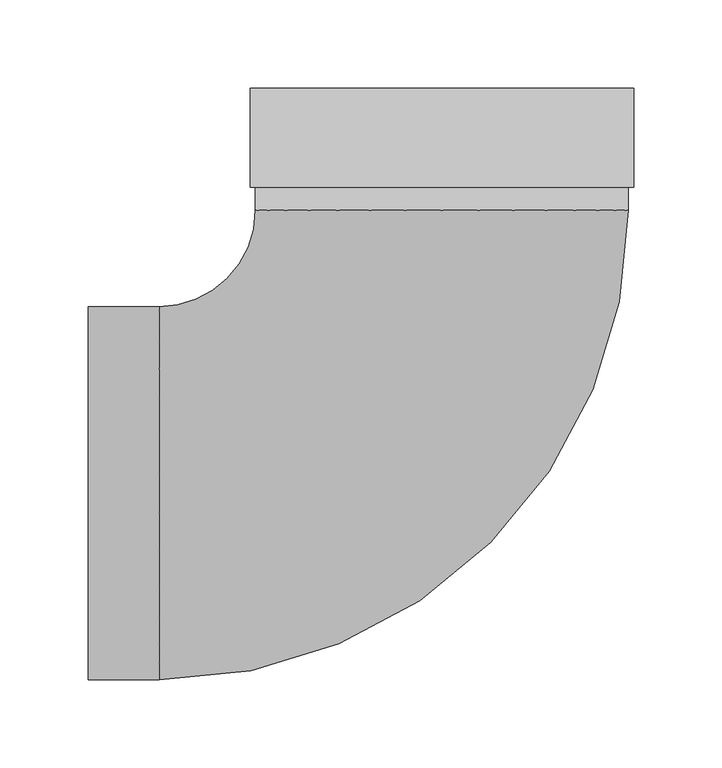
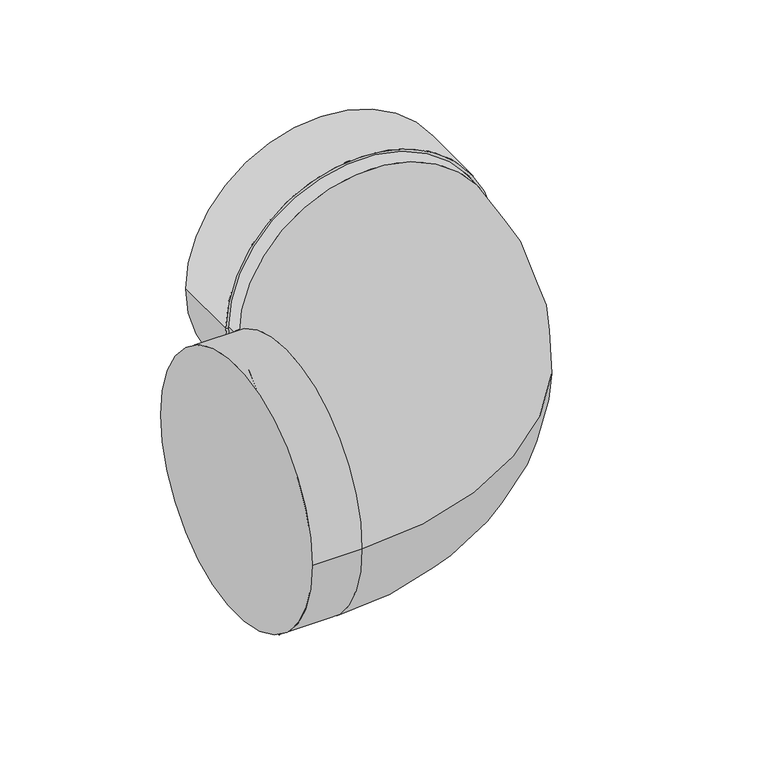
"""IFC4 building model written with IfcOpenShell, lengths in millimetres: duct fitting geometry, NLRS_57_DUF_UN_bend EPS_M&G : ø125 - ø200."""

import ifcopenshell
import ifcopenshell.guid

model = None  # the IFC model being written
_history = None  # IfcOwnerHistory: only IFC2X3 demands one
_inside = {}  # id of a spatial element -> (the spatial element, [elements in it])
_under = {}  # id of a project, library or spatial element -> (it, [spatial elements below it])
_declared = {}  # id of a project -> (the project, [libraries it declares])
_typed = {}  # id of a type object -> (the type object, [elements of that type])
_made_of = {}  # id of a material, layer set ... -> (it, [elements and type objects made of it])


def new_model(schema):
    """Start an empty IFC model of exactly this schema.

    Asked for "IFC4X3", IfcOpenShell would pick the latest addendum, in which some entities
    have other attributes; the version numbers below select the first issue.
    IFC2X3 requires an IfcOwnerHistory on every rooted entity: one is made here for all.
    """
    global model, _history
    if schema == "IFC4X3":
        model = ifcopenshell.file(schema_version=(4, 3, 0, 0))
    else:
        model = ifcopenshell.file(schema=schema)
    _inside.clear()
    _under.clear()
    _declared.clear()
    _typed.clear()
    _made_of.clear()
    _history = None
    if model.schema == "IFC2X3":
        org = make("IfcOrganization", Name="unknown")
        user = make(
            "IfcPersonAndOrganization",
            ThePerson=make("IfcPerson", FamilyName="unknown"),
            TheOrganization=org,
        )
        app = make(
            "IfcApplication",
            ApplicationDeveloper=org,
            Version="unknown",
            ApplicationFullName="unknown",
            ApplicationIdentifier="unknown",
        )
        _history = make(
            "IfcOwnerHistory",
            OwningUser=user,
            OwningApplication=app,
            ChangeAction="ADDED",
            CreationDate=0,
        )
    return model


def make(cls, **values):
    """One entity of the class cls with the attributes given. An attribute that is None is left unset."""
    return model.create_entity(
        cls, **{name: value for name, value in values.items() if value is not None}
    )


def rooted(cls, **values):
    """An entity with a GlobalId (a new one), such as an element, a storey or a relation."""
    return make(cls, GlobalId=ifcopenshell.guid.new(), OwnerHistory=_history, **values)


def si_unit(unit_type, name, prefix=None):
    """IfcSIUnit, for example si_unit("LENGTHUNIT", "METRE", prefix="MILLI")."""
    return make("IfcSIUnit", UnitType=unit_type, Prefix=prefix, Name=name)


def assignment(units):
    """IfcUnitAssignment: the units of a project."""
    return None if units is None else make("IfcUnitAssignment", Units=units)


def point(xyz):
    """IfcCartesianPoint."""
    return None if xyz is None else make("IfcCartesianPoint", Coordinates=xyz)


def direction(xyz):
    """IfcDirection."""
    return None if xyz is None else make("IfcDirection", DirectionRatios=xyz)


def frame(location, z_axis=None, x_axis=None):
    """IfcAxis2Placement3D, a coordinate frame: its origin and axes. An axis left out is left unset."""
    return make(
        "IfcAxis2Placement3D",
        Location=point(location),
        Axis=direction(z_axis),
        RefDirection=direction(x_axis),
    )


def origin():
    """The frame at (0, 0, 0) with its axes left unset."""
    return frame((0.0, 0.0, 0.0))


def place(relative_to, where):
    """IfcLocalPlacement: puts the frame where relative to a parent placement (None: the world)."""
    return make(
        "IfcLocalPlacement", PlacementRelTo=relative_to, RelativePlacement=where
    )


def context(
    kind, dimensions, precision=None, world=None, true_north=None, identifier=None
):
    """IfcGeometricRepresentationContext, for example the 3D "Model" context."""
    return make(
        "IfcGeometricRepresentationContext",
        ContextIdentifier=identifier,
        ContextType=kind,
        CoordinateSpaceDimension=dimensions,
        Precision=precision,
        WorldCoordinateSystem=world,
        TrueNorth=true_north,
    )


def project(units=None, contexts=None):
    """IfcProject with its units and contexts."""
    return rooted(
        "IfcProject",
        Name="project",
        RepresentationContexts=contexts,
        UnitsInContext=assignment(units),
    )


def spatial(cls, under=None, at=None, **own):
    """A site, building, storey or space (cls), placed at a placement, below another one or the project."""
    s = rooted(cls, ObjectPlacement=at, **own)
    if under is not None:
        _under.setdefault(under.id(), (under, []))[1].append(s)
    return s


def polyline(points):
    """IfcPolyline through the points."""
    return make("IfcPolyline", Points=[point(p) for p in points])


def circle_curve(where, radius):
    """IfcCircle in the frame where."""
    return make("IfcCircle", Position=where, Radius=radius)


def ellipse_curve(where, semi_axis1, semi_axis2):
    """IfcEllipse in the frame where."""
    return make(
        "IfcEllipse", Position=where, SemiAxis1=semi_axis1, SemiAxis2=semi_axis2
    )


def trimmed(basis, trim1, trim2, sense, master):
    """IfcTrimmedCurve: the piece of a basis curve between two trims."""
    return make(
        "IfcTrimmedCurve",
        BasisCurve=basis,
        Trim1=trim1,
        Trim2=trim2,
        SenseAgreement=sense,
        MasterRepresentation=master,
    )


def shape(context_of_items, identifier, shape_type, items):
    """IfcShapeRepresentation: the items that make up one representation, for example the "Body"."""
    return make(
        "IfcShapeRepresentation",
        ContextOfItems=context_of_items,
        RepresentationIdentifier=identifier,
        RepresentationType=shape_type,
        Items=items,
    )


def source(mapping_origin, context_of_items, identifier, shape_type, items):
    """IfcRepresentationMap: a shape defined once, which mapped items show again and again."""
    return make(
        "IfcRepresentationMap",
        MappingOrigin=mapping_origin,
        MappedRepresentation=shape(context_of_items, identifier, shape_type, items),
    )


def transform(
    local_origin,
    x_axis=None,
    y_axis=None,
    z_axis=None,
    scale=None,
    scale2=None,
    scale3=None,
    uniform=True,
):
    """IfcCartesianTransformationOperator3D, or its non-uniform kind. x_axis, y_axis, z_axis: its Axis1, 2, 3."""
    if uniform:
        return make(
            "IfcCartesianTransformationOperator3D",
            Axis1=direction(x_axis),
            Axis2=direction(y_axis),
            LocalOrigin=point(local_origin),
            Scale=scale,
            Axis3=direction(z_axis),
        )
    return make(
        "IfcCartesianTransformationOperator3DnonUniform",
        Axis1=direction(x_axis),
        Axis2=direction(y_axis),
        LocalOrigin=point(local_origin),
        Scale=scale,
        Axis3=direction(z_axis),
        Scale2=scale2,
        Scale3=scale3,
    )


def mapped(mapping_source, mapping_target):
    """IfcMappedItem: shows the shape of a source again, moved by a transform."""
    return make(
        "IfcMappedItem", MappingSource=mapping_source, MappingTarget=mapping_target
    )


def made_of(thing, what):
    """Note that an element or type object is made of a material, layer set ...; save() writes the relation."""
    if what is not None:
        _made_of.setdefault(what.id(), (what, []))[1].append(thing)
    return thing


def element(
    cls,
    number,
    at=None,
    inside=None,
    cuts=None,
    type_object=None,
    material=None,
    context=None,
    identifier="Body",
    shape_type=None,
    held_by="IfcProductDefinitionShape",
    body=None,
    shapes=None,
    **own,
):
    """One element of the class cls, such as IfcWall. Its Tag is "e" and its number.

    at: its placement. inside: the storey or other place that contains it. cuts: it is an
    opening in that element (IfcRelVoidsElement). A single representation is given by context,
    identifier, shape_type and body (its items); several are given by shapes. held_by: the class
    of the entity that holds the representations. save() writes the other relations.
    """
    e = rooted(cls, Tag="e%d" % number, ObjectPlacement=at, **own)
    if body is not None:
        shapes = [shape(context, identifier, shape_type, body)]
    if shapes is not None:
        e.Representation = make(held_by, Representations=shapes)
    if inside is not None:
        _inside.setdefault(inside.id(), (inside, []))[1].append(e)
    if cuts is not None:
        rooted(
            "IfcRelVoidsElement", RelatingBuildingElement=cuts, RelatedOpeningElement=e
        )
    if type_object is not None:
        _typed.setdefault(type_object.id(), (type_object, []))[1].append(e)
    return made_of(e, material)


def aggregate(whole, parts):
    """IfcRelAggregates: a whole, such as a stair, and the parts it consists of."""
    return rooted("IfcRelAggregates", RelatingObject=whole, RelatedObjects=parts)


def save(model, path):
    """Write the relations noted so far, then the file.

    IfcRelAggregates (storeys below a building ...), IfcRelContainedInSpatialStructure (elements
    in a storey), IfcRelDefinesByType, IfcRelAssociatesMaterial and IfcRelDeclares: one each for
    every whole, place, type object, material and project.
    """
    for whole, parts in _under.values():
        aggregate(whole, parts)
    for where, things in _inside.values():
        rooted(
            "IfcRelContainedInSpatialStructure",
            RelatedElements=things,
            RelatingStructure=where,
        )
    for kind, things in _typed.values():
        rooted("IfcRelDefinesByType", RelatedObjects=things, RelatingType=kind)
    for what, things in _made_of.values():
        rooted("IfcRelAssociatesMaterial", RelatedObjects=things, RelatingMaterial=what)
    for by, libraries in _declared.values():
        rooted("IfcRelDeclares", RelatingContext=by, RelatedDefinitions=libraries)
    model.write(path)


def plane_surface(at):
    """IfcPlane: the flat surface through the origin of the frame at, square to its z axis."""
    return make("IfcPlane", Position=at)


def cylinder_surface(at, radius):
    """IfcCylindricalSurface: all points at the distance radius from the z axis of the frame at."""
    return make("IfcCylindricalSurface", Position=at, Radius=radius)


def revolved_surface(curve, axis_point, axis_direction):
    """IfcSurfaceOfRevolution: the curve turned about the line through axis_point along axis_direction."""
    return make(
        "IfcSurfaceOfRevolution",
        SweptCurve=make("IfcArbitraryOpenProfileDef", ProfileType="CURVE", Curve=curve),
        AxisPosition=make("IfcAxis1Placement", Location=point(axis_point), Axis=direction(axis_direction)),
    )


def advanced_brep(points, edges, surfaces, faces):
    """IfcAdvancedBrep: a solid bounded by faces that lie on surfaces and meet in shared edges.

    An edge is (start, end): straight between two places in points (the first is 0);
    or (start, end, curve); or (start, end, curve, False) where it runs against its curve.
    A face is (place in surfaces, loops), or (place, loops, False) where it looks against
    its surface's normal. A loop lists edges by number (the first is 1), with a minus sign
    where the edge is run from its end to its start. The first loop is the outer one.
    """
    corners = [point(p) for p in points]
    vertices = [make("IfcVertexPoint", VertexGeometry=c) for c in corners]
    made = []
    for start, end, *more in edges:
        made.append(
            make(
                "IfcEdgeCurve",
                EdgeStart=vertices[start],
                EdgeEnd=vertices[end],
                EdgeGeometry=more[0] if more else make("IfcPolyline", Points=[corners[start], corners[end]]),
                SameSense=more[1] if len(more) > 1 else True,
            )
        )
    hull = []
    for where, loops, *sense in faces:
        bounds = []
        for j, loop in enumerate(loops):
            ring = [make("IfcOrientedEdge", EdgeElement=made[abs(k) - 1], Orientation=k > 0) for k in loop]
            bounds.append(
                make(
                    "IfcFaceOuterBound" if j == 0 else "IfcFaceBound",
                    Bound=make("IfcEdgeLoop", EdgeList=ring),
                    Orientation=True,
                )
            )
        hull.append(make("IfcAdvancedFace", Bounds=bounds, FaceSurface=surfaces[where], SameSense=sense[0] if sense else True))
    return make("IfcAdvancedBrep", Outer=make("IfcClosedShell", CfsFaces=hull))


def duct_fitting_f7902b71(model_context):
    return source(origin(), model_context, "Body", "AdvancedBrep", [
        advanced_brep(
        [(108.5, 173.0, 0.0), (-108.5, 173.0, 0.0), (-108.5, 229.0, 0.0), (108.5, 229.0, 0.0), (106.5, 173.0, 0.0), (-106.5, 173.0, 0.0), (106.5, 200.0, 0.0), (-106.5, 200.0, 0.0), (104.5, 200.0, 0.0), (-104.5, 200.0, 0.0), (106.5, 202.0, 0.0), (-106.5, 202.0, 0.0), (-104.5, 202.0, 0.0), (104.5, 202.0, 0.0), (106.5, 229.0, 0.0), (-106.5, 229.0, 0.0)],
        [
            (0, 1, circle_curve(frame((0.0, 173.0, 0.0), z_axis=(0.0, 1.0, 0.0), x_axis=(-1.0, 0.0, 0.0)), 108.5)),
            (1, 2),
            (2, 3, circle_curve(frame((0.0, 229.0, 0.0), z_axis=(0.0, -1.0, 0.0), x_axis=(-1.0, 0.0, 0.0)), 108.5)),
            (3, 0),
            (1, 0, circle_curve(frame((0.0, 173.0, 0.0), z_axis=(0.0, 1.0, 0.0), x_axis=(-1.0, 0.0, 0.0)), 108.5)),
            (3, 2, circle_curve(frame((0.0, 229.0, 0.0), z_axis=(0.0, -1.0, 0.0), x_axis=(-1.0, 0.0, 0.0)), 108.5)),
            (4, 5, circle_curve(frame((0.0, 173.0, 0.0), z_axis=(0.0, 1.0, 0.0), x_axis=(-1.0, 0.0, 0.0)), 106.5)),
            (5, 1),
            (0, 4),
            (5, 4, circle_curve(frame((0.0, 173.0, 0.0), z_axis=(0.0, 1.0, 0.0), x_axis=(-1.0, 0.0, 0.0)), 106.5)),
            (6, 7, circle_curve(frame((0.0, 200.0, 0.0), z_axis=(0.0, 1.0, 0.0), x_axis=(-1.0, 0.0, 0.0)), 106.5)),
            (7, 5),
            (4, 6),
            (7, 6, circle_curve(frame((0.0, 200.0, 0.0), z_axis=(0.0, 1.0, 0.0), x_axis=(-1.0, 0.0, 0.0)), 106.5)),
            (8, 9, circle_curve(frame((0.0, 200.0, 0.0), z_axis=(0.0, 1.0, 0.0), x_axis=(-1.0, 0.0, 0.0)), 104.5)),
            (9, 7),
            (6, 8),
            (9, 8, circle_curve(frame((0.0, 200.0, 0.0), z_axis=(0.0, 1.0, 0.0), x_axis=(-1.0, 0.0, 0.0)), 104.5)),
            (10, 11, circle_curve(frame((0.0, 202.0, 0.0), z_axis=(0.0, 1.0, 0.0), x_axis=(-1.0, 0.0, 0.0)), 106.5)),
            (11, 12),
            (12, 13, circle_curve(frame((0.0, 202.0, 0.0), z_axis=(0.0, -1.0, 0.0), x_axis=(-1.0, 0.0, 0.0)), 104.5)),
            (13, 10),
            (11, 10, circle_curve(frame((0.0, 202.0, 0.0), z_axis=(0.0, 1.0, 0.0), x_axis=(-1.0, 0.0, 0.0)), 106.5)),
            (13, 12, circle_curve(frame((0.0, 202.0, 0.0), z_axis=(0.0, -1.0, 0.0), x_axis=(-1.0, 0.0, 0.0)), 104.5)),
            (14, 15, circle_curve(frame((0.0, 229.0, 0.0), z_axis=(0.0, 1.0, 0.0), x_axis=(-1.0, 0.0, 0.0)), 106.5)),
            (15, 11),
            (10, 14),
            (15, 14, circle_curve(frame((0.0, 229.0, 0.0), z_axis=(0.0, 1.0, 0.0), x_axis=(-1.0, 0.0, 0.0)), 106.5)),
            (2, 15),
            (14, 3),
            (12, 9),
            (8, 13),
        ],
        [
            cylinder_surface(frame((0.0, 2176.5, 0.0), z_axis=(0.0, -1.0, 0.0), x_axis=(-1.0, 0.0, 0.0)), 108.5),
            plane_surface(frame((0.0, 173.0, 0.0), z_axis=(0.0, -1.0, 0.0), x_axis=(-1.0, 0.0, 0.0))),
            revolved_surface(polyline([(-106.5, 173.0, 0.0), (-106.5, 200.0, 0.0)]), (0.0, 2176.5, 0.0), (0.0, -1.0, 0.0)),
            plane_surface(frame((0.0, 200.0, 0.0), z_axis=(0.0, -1.0, 0.0), x_axis=(-1.0, 0.0, 0.0))),
            plane_surface(frame((0.0, 202.0, 0.0), z_axis=(0.0, 1.0, 0.0), x_axis=(-1.0, 0.0, 0.0))),
            revolved_surface(polyline([(-106.5, 202.0, 0.0), (-106.5, 229.0, 0.0)]), (0.0, 2176.5, 0.0), (0.0, -1.0, 0.0)),
            plane_surface(frame((0.0, 229.0, 0.0), z_axis=(0.0, 1.0, 0.0), x_axis=(-1.0, 0.0, 0.0))),
            revolved_surface(polyline([(-104.5, 200.0, 0.0), (-104.5, 202.0, 0.0)]), (0.0, 2176.5, 0.0), (0.0, -1.0, 0.0)),
        ],
        [
            (0, [[1, 2, 3, 4]]),
            (0, [[5, -4, 6, -2]]),
            (1, [[7, 8, -1, 9]]),
            (1, [[10, -9, -5, -8]]),
            (2, [[11, 12, -7, 13]]),
            (2, [[14, -13, -10, -12]]),
            (3, [[15, 16, -11, 17]]),
            (3, [[18, -17, -14, -16]]),
            (4, [[19, 20, 21, 22]]),
            (4, [[23, -22, 24, -20]]),
            (5, [[25, 26, -19, 27]]),
            (5, [[28, -27, -23, -26]]),
            (6, [[-3, 29, -25, 30]]),
            (6, [[-6, -30, -28, -29]]),
            (7, [[-21, 31, -15, 32]]),
            (7, [[-24, -32, -18, -31]]),
        ],
    ),
        advanced_brep(
        [(-200.0, -105.5, 0.0), (-200.0, 105.5, 0.0), (-160.0, -105.5, 0.0), (-160.0, 105.5, 0.0), (-105.5, 160.0, 0.0), (105.5, 160.0, 0.0), (105.5, 200.0, 0.0), (-105.5, 200.0, 0.0)],
        [
            (0, 1, circle_curve(frame((-200.0, 0.0, 0.0), z_axis=(-1.0, 0.0, 0.0), x_axis=(0.0, 1.0, 0.0)), 105.5)),
            (1, 0, circle_curve(frame((-200.0, 0.0, 0.0), z_axis=(-1.0, 0.0, 0.0), x_axis=(0.0, 1.0, 0.0)), 105.5)),
            (0, 2),
            (2, 3, circle_curve(frame((-160.0, 0.0, 0.0), z_axis=(-1.0, 0.0, 0.0), x_axis=(0.0, 1.0, 0.0)), 105.5)),
            (3, 1),
            (3, 2, circle_curve(frame((-160.0, 0.0, 0.0), z_axis=(-1.0, 0.0, 0.0), x_axis=(0.0, 1.0, 0.0)), 105.5)),
            (4, 3, circle_curve(frame((-160.0, 160.0, 0.0), z_axis=(0.0, 0.0, -1.0), x_axis=(0.0, -1.0, 0.0)), 54.5)),
            (2, 5, circle_curve(frame((-160.0, 160.0, 0.0), z_axis=(0.0, 0.0, 1.0), x_axis=(0.0, -1.0, 0.0)), 265.5)),
            (5, 4, circle_curve(frame((0.0, 160.0, 0.0), z_axis=(0.0, -1.0, 0.0), x_axis=(-1.0, 0.0, 0.0)), 105.5)),
            (4, 5, circle_curve(frame((0.0, 160.0, 0.0), z_axis=(0.0, -1.0, 0.0), x_axis=(-1.0, 0.0, 0.0)), 105.5)),
            (6, 7, circle_curve(frame((0.0, 200.0, 0.0), z_axis=(0.0, 1.0, 0.0), x_axis=(-1.0, 0.0, 0.0)), 105.5)),
            (7, 6, circle_curve(frame((0.0, 200.0, 0.0), z_axis=(0.0, 1.0, 0.0), x_axis=(-1.0, 0.0, 0.0)), 105.5)),
            (5, 6),
            (7, 4),
        ],
        [
            plane_surface(frame((-200.0, 0.0, 0.0), z_axis=(-1.0, 0.0, 0.0), x_axis=(0.0, 0.0, 1.0))),
            cylinder_surface(frame((-200.0, 0.0, 0.0), z_axis=(-1.0, 0.0, 0.0), x_axis=(0.0, 1.0, 0.0)), 105.5),
            revolved_surface(trimmed(ellipse_curve(frame((-160.0, 0.0, 0.0), z_axis=(-1.0, 0.0, 0.0), x_axis=(0.0, 1.0, 0.0)), 105.5, 105.5), [point((-160.0, -105.5, 0.0))], [point((-160.0, 105.5, 0.0))], True, "CARTESIAN"), (-160.0, 160.0, 0.0), (0.0, 0.0, 1.0)),
            revolved_surface(trimmed(ellipse_curve(frame((-160.0, 0.0, 0.0), z_axis=(-1.0, 0.0, 0.0), x_axis=(0.0, 1.0, 0.0)), 105.5, 105.5), [point((-160.0, 105.5, 0.0))], [point((-160.0, -105.5, 0.0))], True, "CARTESIAN"), (-160.0, 160.0, 0.0), (0.0, 0.0, 1.0)),
            plane_surface(frame((0.0, 200.0, 0.0), z_axis=(0.0, 1.0, 0.0), x_axis=(0.0, 0.0, 1.0))),
            cylinder_surface(frame((0.0, 160.0, 0.0), z_axis=(0.0, -1.0, 0.0), x_axis=(-1.0, 0.0, 0.0)), 105.5),
        ],
        [
            (0, [[1, 2]]),
            (1, [[-1, 3, 4, 5]]),
            (1, [[-2, -5, 6, -3]]),
            (2, [[7, -4, 8, 9]]),
            (3, [[-8, -6, -7, 10]]),
            (4, [[11, 12]]),
            (5, [[-9, 13, -12, 14]]),
            (5, [[-10, -14, -11, -13]]),
        ],
    ),
    ])


if __name__ == "__main__":
    model = new_model("IFC4")
    model_context = context("Model", 3, world=origin())
    ifc_project = project(units=[si_unit("LENGTHUNIT", "METRE", prefix="MILLI")], contexts=[model_context])
    site = spatial("IfcSite", under=ifc_project)
    building = spatial("IfcBuilding", under=site)
    placement = place(None, origin())
    duct_fitting_shape = duct_fitting_f7902b71(model_context)
    element("IfcDuctFitting", 1, ObjectType="NLRS_57_DUF_UN_bend EPS_M&G : ø125 - ø200", at=placement, inside=building, context=model_context, shape_type="MappedRepresentation", body=[
        mapped(duct_fitting_shape, transform((0.0, 0.0, 0.0), x_axis=(1.0, 0.0, 0.0), y_axis=(0.0, 1.0, 0.0), z_axis=(0.0, 0.0, 1.0))),
    ])
    save(model, "model.ifc")
